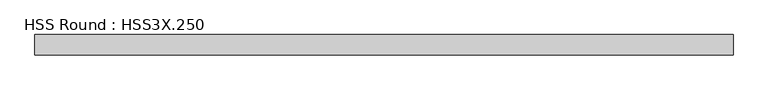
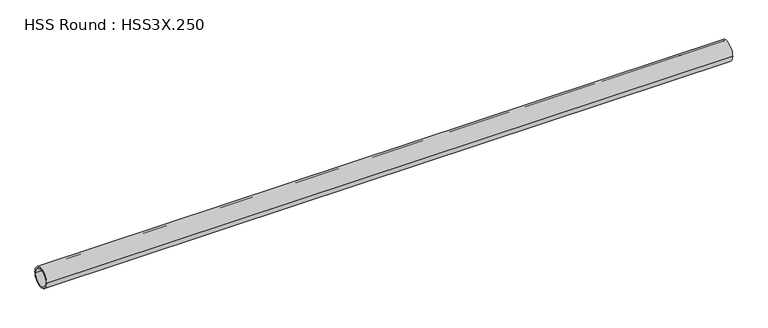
"""IFC4 building model written with IfcOpenShell, lengths in millimetres: member geometry, HSS Round : HSS3X.250."""

from ifc_helpers import new_model, si_unit, point, frame, origin, origin_2d, place, context, project, spatial, circle_curve, trimmed, segment, composite_curve, outline, extrude, source, transform, mapped, element, save


def hss_round_hss3x_250_88736781(model_context):
    return source(origin(), model_context, "Body", "SweptSolid", [
        extrude(outline(composite_curve([segment(trimmed(circle_curve(origin_2d(), 38.1), [point((-38.1, 0.0))], [point((38.1, 0.0))], False, "CARTESIAN"), True, "CONTINUOUS"), segment(trimmed(circle_curve(origin_2d(), 38.1), [point((38.1, 0.0))], [point((-38.1, 0.0))], False, "CARTESIAN"), True, "CONTINUOUS")], self_intersect=False), holes=[composite_curve([segment(trimmed(circle_curve(origin_2d(), 31.75), [point((31.75, 0.0))], [point((-31.75, 0.0))], True, "CARTESIAN"), True, "CONTINUOUS"), segment(trimmed(circle_curve(origin_2d(), 31.75), [point((-31.75, 0.0))], [point((31.75, 0.0))], True, "CARTESIAN"), True, "CONTINUOUS")], self_intersect=False)]), frame((-1264.9362196, 0.0, 0.0), z_axis=(1.0, 0.0, 0.0), x_axis=(0.0, 1.0, 0.0)), (0.0, 0.0, 1.0), 2587.8037126),
    ])


if __name__ == "__main__":
    model = new_model("IFC4")
    model_context = context("Model", 3, world=origin())
    ifc_project = project(units=[si_unit("LENGTHUNIT", "METRE", prefix="MILLI")], contexts=[model_context])
    site = spatial("IfcSite", under=ifc_project)
    building = spatial("IfcBuilding", under=site)
    placement = place(None, origin())
    hss_round_hss3x_250_shape = hss_round_hss3x_250_88736781(model_context)
    element("IfcMember", 1, ObjectType="HSS Round : HSS3X.250", at=placement, inside=building, context=model_context, shape_type="MappedRepresentation", body=[
        mapped(hss_round_hss3x_250_shape, transform((0.0, 0.0, 0.0), x_axis=(1.0, 0.0, 0.0), y_axis=(0.0, 1.0, 0.0), z_axis=(0.0, 0.0, 1.0))),
    ])
    save(model, "model.ifc")
